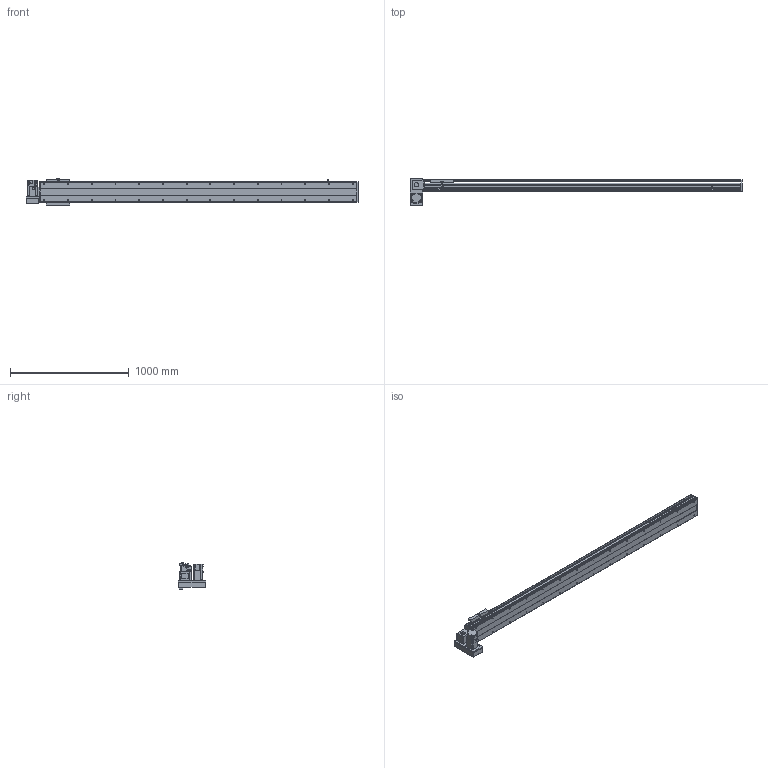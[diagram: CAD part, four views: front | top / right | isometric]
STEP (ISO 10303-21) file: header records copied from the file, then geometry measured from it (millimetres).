
FILE_DESCRIPTION(/* description */ ('STEP AP214'),/* implementation_level */ '2;1');
FILE_NAME(/* name */ 'PBS200-P40-S2300-LD-T75-C1-N(0)',/* time_stamp */ '2022-06-11T08:46:07+02:00',/* author */ ('License CC BY-ND 4.0'),/* organization */ ('CADENAS'),/* preprocessor_version */ 'ST-DEVELOPER v18.102',/* originating_system */ 'PARTsolutions',/* authorisation */ ' ');
FILE_SCHEMA (('AUTOMOTIVE_DESIGN {1 0 10303 214 3 1 1}'));
Length unit declared in the file: millimetre
Products named in the file (7): PBS200-P40-S2300-LD-T75-C1-N(0); PBS200_sensor; PBS200_plant; PBS200_sliser; T75-p1; PBS200T-LD_motors; PBS200-S2300()_body
Assembly tree (8 placements, depth 2):
  PBS200-P40-S2300-LD-T75-C1-N(0)
    PBS200_sensor  x3
    PBS200_plant
    PBS200_sliser
    T75-p1
    PBS200T-LD_motors
    PBS200-S2300()_body
Bounding box: 2800 x 230 x 221 mm (x, y, z)
Volume: 19355425.5 mm3; surface area: 3099216.1 mm2
Topology: 8 solids, 8 shells, 956 faces, 2434 edges, 1584 vertices
Faces by surface type: plane 586, cylinder 310, cone 60
Full cylindrical faces by diameter (mm): 2.459 x6, 3.242 x4, 4.5 x6, 4.917 x4, 5 x6, 6 x7, 6.6 x8, 6.647 x32, 8 x6, 10 x4, 12 x8, 38 x2, 40 x1, 70 x1
Entity records: 25301 total; most frequent: DIRECTION 4471, CARTESIAN_POINT 4300, ORIENTED_EDGE 4054, EDGE_CURVE 2027, AXIS2_PLACEMENT_3D 1579, VERTEX_POINT 1408, LINE 1313, VECTOR 1313
